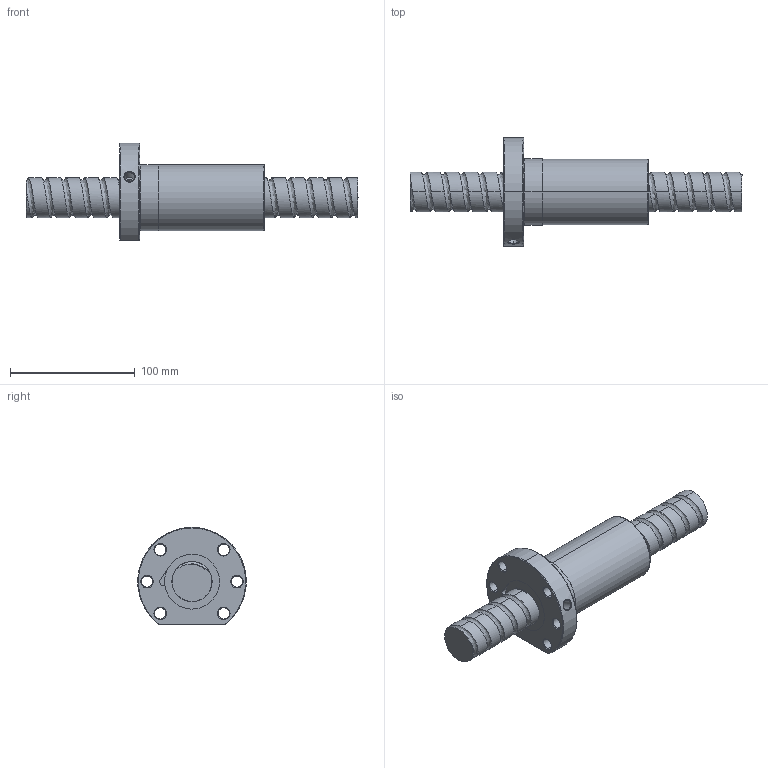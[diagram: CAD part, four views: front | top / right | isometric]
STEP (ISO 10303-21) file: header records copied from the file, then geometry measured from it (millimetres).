
FILE_DESCRIPTION (( 'STEP AP214' ), '1' );
FILE_NAME ('FSDC03215T5-D-B.STEP', '2010-06-25T12:04:14', ( 'XPAUTO' ), ( 'XPAUTO' ), 'SwSTEP 2.0', 'SolidWorks 2007', '' );
FILE_SCHEMA (( 'AUTOMOTIVE_DESIGN' ));
Length unit declared in the file: millimetre
Products named in the file (3): FSDC03215T5-D-B; FSDC03215T5-D-B.sldasm-Part-2_預設; FSDC03215T5-D-B.sldasm-Part-1_預設
Assembly tree (2 placements, depth 2):
  FSDC03215T5-D-B
    FSDC03215T5-D-B.sldasm-Part-1_預設
    FSDC03215T5-D-B.sldasm-Part-2_預設
Bounding box: 266 x 86.73 x 78 mm (x, y, z)
Volume: 410084.2 mm3; surface area: 75704.2 mm2
Topology: 2 solids, 2 shells, 128 faces, 321 edges, 202 vertices
Faces by surface type: cylinder 75, cone 24, plane 19, bspline 5, torus 5
Entity records: 25868 total; most frequent: CARTESIAN_POINT 22812, ORIENTED_EDGE 642, DIRECTION 589, EDGE_CURVE 321, AXIS2_PLACEMENT_3D 239, VERTEX_POINT 202, EDGE_LOOP 149, FACE_OUTER_BOUND 128
